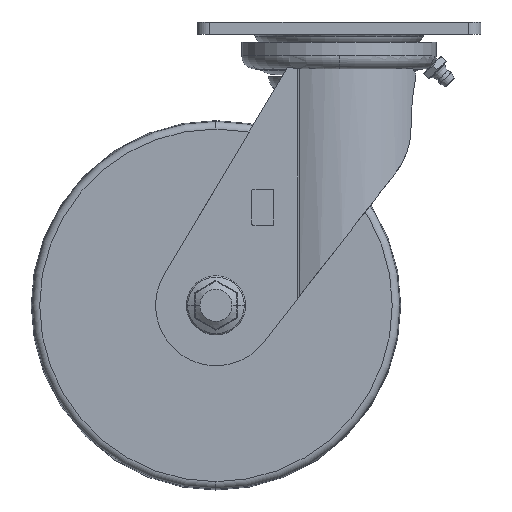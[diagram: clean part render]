
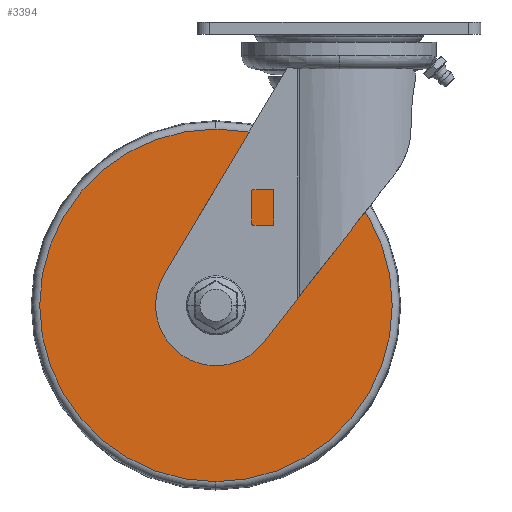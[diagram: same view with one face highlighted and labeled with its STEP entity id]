
A CAD part, front view. The second image highlights one B-rep face of the part: STEP entity #3394.
In plain terms, the highlighted planar face has unit normal (0, -1, 0) as drawn and (0, 1, 0) by its records, which use the part's own axes.
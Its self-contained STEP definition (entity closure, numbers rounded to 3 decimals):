
#1892=CARTESIAN_POINT('',(143.289,-110.285,185.352));
#1893=VERTEX_POINT('',#1892);
#1902=CARTESIAN_POINT('',(143.289,-110.285,42.24));
#1903=VERTEX_POINT('',#1902);
#1911=CARTESIAN_POINT('',(143.289,-110.285,113.796));
#1912=DIRECTION('',(0.0,-1.0,0.0));
#1913=DIRECTION('',(0.0,0.0,1.0));
#1914=AXIS2_PLACEMENT_3D('',#1911,#1912,#1913);
#1915=CIRCLE('',#1914,71.556);
#1916=EDGE_CURVE('',#1903,#1893,#1915,.T.);
#1960=CARTESIAN_POINT('',(143.289,-110.285,123.796));
#1961=VERTEX_POINT('',#1960);
#1970=CARTESIAN_POINT('',(143.289,-110.285,103.796));
#1971=VERTEX_POINT('',#1970);
#1972=CARTESIAN_POINT('',(143.289,-110.285,113.796));
#1973=DIRECTION('',(0.0,-1.0,0.0));
#1974=DIRECTION('',(0.0,0.0,1.0));
#1975=AXIS2_PLACEMENT_3D('',#1972,#1973,#1974);
#1976=CIRCLE('',#1975,10.0);
#1977=EDGE_CURVE('',#1971,#1961,#1976,.T.);
#3327=CARTESIAN_POINT('',(143.289,-110.285,113.796));
#3328=DIRECTION('',(0.0,-1.0,0.0));
#3329=DIRECTION('',(0.0,0.0,1.0));
#3330=AXIS2_PLACEMENT_3D('',#3327,#3328,#3329);
#3331=CIRCLE('',#3330,10.0);
#3332=EDGE_CURVE('',#1961,#1971,#3331,.T.);
#3375=CARTESIAN_POINT('',(143.289,-110.285,154.574));
#3376=DIRECTION('',(0.0,1.0,0.0));
#3377=DIRECTION('',(0.0,0.0,-1.0));
#3378=AXIS2_PLACEMENT_3D('',#3375,#3376,#3377);
#3379=PLANE('',#3378);
#3380=CARTESIAN_POINT('',(143.289,-110.285,113.796));
#3381=DIRECTION('',(0.0,-1.0,0.0));
#3382=DIRECTION('',(0.0,0.0,1.0));
#3383=AXIS2_PLACEMENT_3D('',#3380,#3381,#3382);
#3384=CIRCLE('',#3383,71.556);
#3385=EDGE_CURVE('',#1893,#1903,#3384,.T.);
#3386=ORIENTED_EDGE('',*,*,#3385,.F.);
#3387=ORIENTED_EDGE('',*,*,#1916,.F.);
#3388=EDGE_LOOP('',(#3386,#3387));
#3389=FACE_OUTER_BOUND('',#3388,.T.);
#3390=ORIENTED_EDGE('',*,*,#3332,.T.);
#3391=ORIENTED_EDGE('',*,*,#1977,.T.);
#3392=EDGE_LOOP('',(#3390,#3391));
#3393=FACE_BOUND('',#3392,.T.);
#3394=ADVANCED_FACE('',(#3389,#3393),#3379,.T.);
